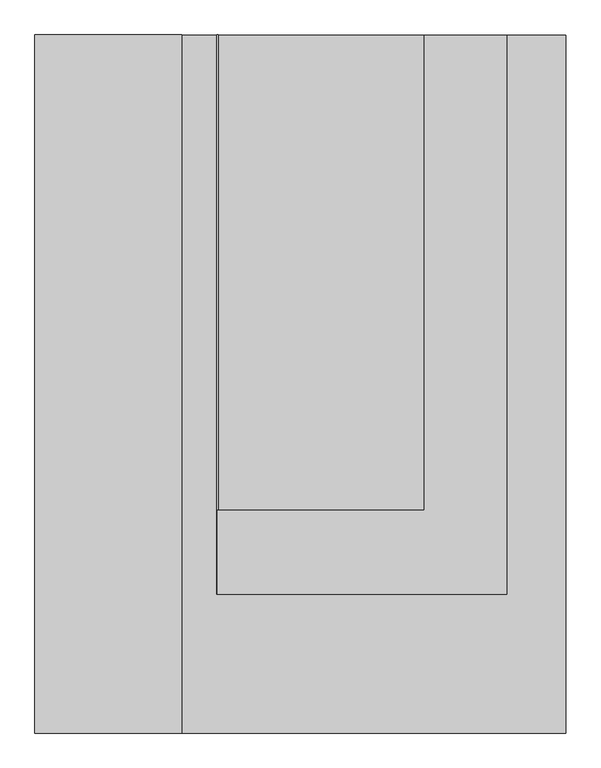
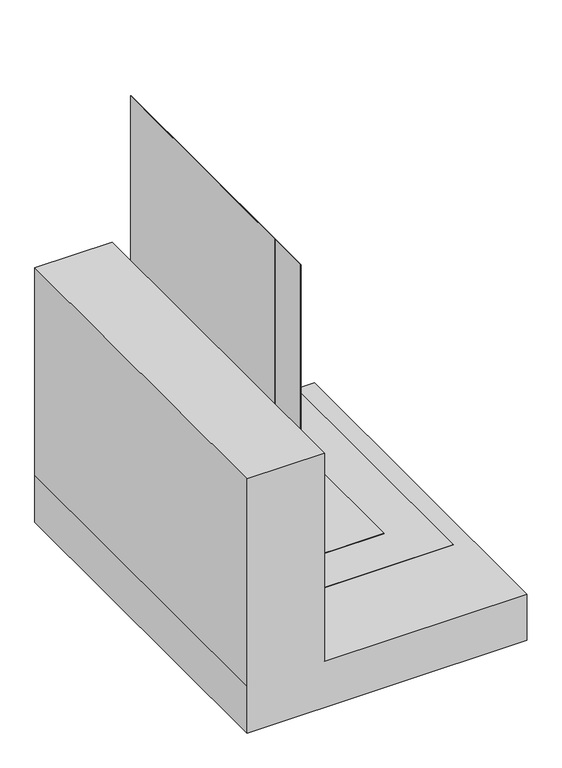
"""IFC4 building model written with IfcOpenShell, lengths in millimetres: proxy geometry, IMPER:IMPER:433934 : IMPER:IMPER:433934."""

from ifc_helpers import new_model, si_unit, frame, origin, place, context, project, spatial, polyline, outline, extrude, source, transform, mapped, element, save


def generic_models_e048866b(model_context):
    return source(origin(), model_context, "Body", "SweptSolid", [
        extrude(outline(polyline([(148.476202, -350.9704105), (148.476202, 537.2935824), (153.476202, 537.2935824), (153.476202, -345.9704105), (2997.476202, -345.9704105), (2997.476202, -350.9704105), (148.476202, -350.9704105)])), frame((0.0, -1895.1970519, 0.0), z_axis=(0.0, 1.0, 0.0), x_axis=(0.0, 0.0, 1.0)), (0.0, 0.0, 1.0), 2041.0670714),
        extrude(outline(polyline([(147.476202, -351.9704105), (147.476202, 894.4195611), (148.476202, 894.4195611), (148.476202, -350.9704105), (2997.476202, -350.9704105), (2997.476202, -351.9704105), (147.476202, -351.9704105)])), frame((0.0, -2257.3298155, 0.0), z_axis=(0.0, 1.0, 0.0), x_axis=(0.0, 0.0, 1.0)), (0.0, 0.0, 1.0), 2403.199835),
        extrude(outline(polyline([(-402.523798, -1133.0721601), (-402.523798, 1148.0295895), (-2.523798, 1148.0295895), (-2.523798, -501.9704105), (1787.9453576, -501.9704105), (1787.9453576, -1133.0721601), (-2.523798, -1133.0721601), (-402.523798, -1133.0721601)])), frame((0.0, -2854.1299805, 0.0), z_axis=(0.0, 1.0, 0.0), x_axis=(0.0, 0.0, 1.0)), (0.0, 0.0, 1.0), 3000.0),
    ])


if __name__ == "__main__":
    model = new_model("IFC4")
    model_context = context("Model", 3, world=origin())
    ifc_project = project(units=[si_unit("LENGTHUNIT", "METRE", prefix="MILLI")], contexts=[model_context])
    site = spatial("IfcSite", under=ifc_project)
    building = spatial("IfcBuilding", under=site)
    placement = place(None, origin())
    generic_models_shape = generic_models_e048866b(model_context)
    element("IfcBuildingElementProxy", 1, Name="IMPER:IMPER:433934 : IMPER:IMPER:433934", ObjectType="IMPER:IMPER:433934 : IMPER:IMPER:433934", at=placement, inside=building, context=model_context, shape_type="MappedRepresentation", body=[
        mapped(generic_models_shape, transform((0.0, 0.0, 0.0), x_axis=(1.0, 0.0, 0.0), y_axis=(0.0, 1.0, 0.0), z_axis=(0.0, 0.0, 1.0))),
    ])
    save(model, "model.ifc")
